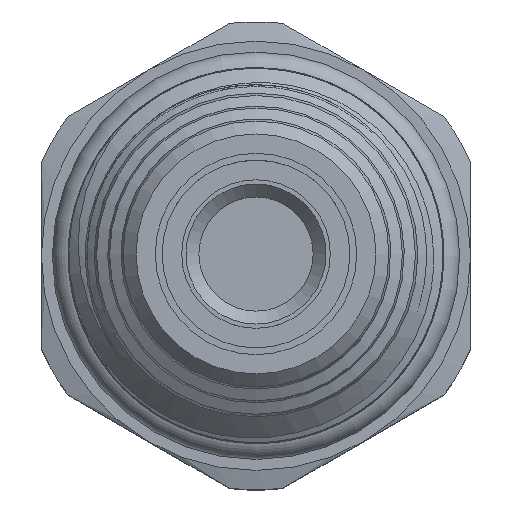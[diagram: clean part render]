
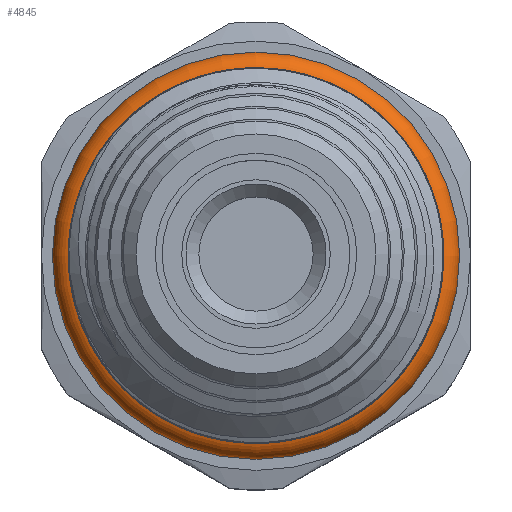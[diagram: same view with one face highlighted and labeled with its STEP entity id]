
A CAD part, top view. The second image highlights one B-rep face of the part: STEP entity #4845.
In plain terms, the highlighted toroidal (fillet/blend) face has major radius 10.82 mm and minor radius 1.232 mm.
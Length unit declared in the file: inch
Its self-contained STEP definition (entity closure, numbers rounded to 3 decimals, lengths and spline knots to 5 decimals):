
#41=TOROIDAL_SURFACE('',#5270,0.426,0.0485);
#443=FACE_OUTER_BOUND('',#779,.T.);
#779=EDGE_LOOP('',(#4059,#4060,#4061,#4062));
#975=CIRCLE('',#5237,0.38625);
#989=CIRCLE('',#5269,0.426);
#990=CIRCLE('',#5271,0.0485);
#2105=VERTEX_POINT('',#16456);
#2110=VERTEX_POINT('',#16470);
#2748=EDGE_CURVE('',#2105,#2105,#975,.T.);
#2772=EDGE_CURVE('',#2110,#2110,#989,.T.);
#2773=EDGE_CURVE('',#2110,#2105,#990,.T.);
#4059=ORIENTED_EDGE('',*,*,#2772,.T.);
#4060=ORIENTED_EDGE('',*,*,#2773,.T.);
#4061=ORIENTED_EDGE('',*,*,#2748,.F.);
#4062=ORIENTED_EDGE('',*,*,#2773,.F.);
#4845=ADVANCED_FACE('',(#443),#41,.T.);
#5237=AXIS2_PLACEMENT_3D('',#16458,#6142,#6143);
#5269=AXIS2_PLACEMENT_3D('',#16511,#6216,#6217);
#5270=AXIS2_PLACEMENT_3D('',#16512,#6218,#6219);
#5271=AXIS2_PLACEMENT_3D('',#16513,#6220,#6221);
#6142=DIRECTION('center_axis',(0.,0.,1.));
#6143=DIRECTION('ref_axis',(-1.,0.,0.));
#6216=DIRECTION('center_axis',(0.,0.,
1.));
#6217=DIRECTION('ref_axis',(-1.,0.,0.));
#6218=DIRECTION('center_axis',(0.,0.,
-1.));
#6219=DIRECTION('ref_axis',(-1.,0.,0.));
#6220=DIRECTION('center_axis',(0.,-1.,0.));
#6221=DIRECTION('ref_axis',(1.,0.,0.));
#16456=CARTESIAN_POINT('',(0.38625,0.,0.63929));
#16458=CARTESIAN_POINT('Origin',(0.,0.,0.63929));
#16470=CARTESIAN_POINT('',(0.426,0.,0.563));
#16511=CARTESIAN_POINT('Origin',(0.,0.,
0.563));
#16512=CARTESIAN_POINT('Origin',(0.,0.,0.6115));
#16513=CARTESIAN_POINT('Origin',(0.426,0.,0.6115));
